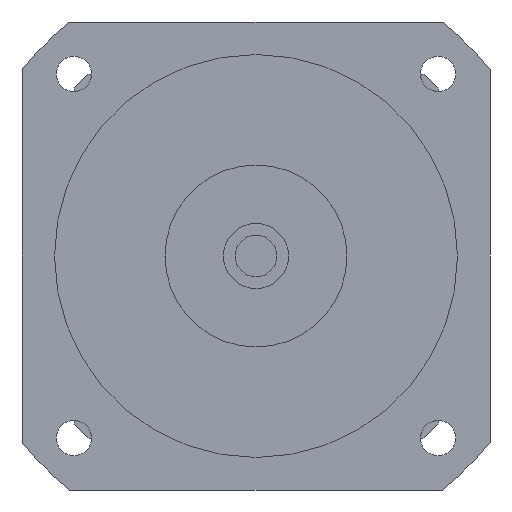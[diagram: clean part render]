
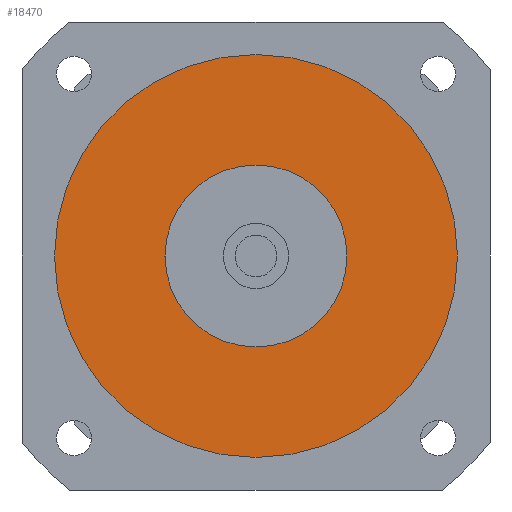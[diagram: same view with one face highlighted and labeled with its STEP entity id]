
A CAD part, left-side view. The second image highlights one B-rep face of the part: STEP entity #18470.
In plain terms, the highlighted planar face has unit normal (-1, 0, 0) as drawn and (0, 0, -1) by its records, which use the part's own axes.
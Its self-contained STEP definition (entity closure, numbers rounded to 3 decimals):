
#17890=CARTESIAN_POINT('',(77.5,0.,-59.7));
#17900=VERTEX_POINT('',#17890);
#17990=CARTESIAN_POINT('',(-77.5,0.,-59.7));
#18000=VERTEX_POINT('',#17990);
#18030=CARTESIAN_POINT('',(0.,0.,
-59.7));
#18040=DIRECTION('',(0.,0.,1.));
#18050=DIRECTION('',(0.,1.,0.));
#18060=AXIS2_PLACEMENT_3D('',#18030,#18040,#18050);
#18070=CIRCLE('',#18060,77.5);
#18080=CARTESIAN_POINT('',(0.,77.5,-59.7));
#18090=VERTEX_POINT('',#18080);
#18100=EDGE_CURVE('',#18090,#18000,#18070,.T.);
#18120=EDGE_CURVE('',#17900,#18090,#18070,.T.);
#18170=CARTESIAN_POINT('',(0.,0.,
-59.7));
#18180=DIRECTION('',(0.,0.,1.));
#18190=DIRECTION('',(-1.,0.,0.));
#18200=AXIS2_PLACEMENT_3D('',#18170,#18180,#18190);
#18210=PLANE('',#18200);
#18220=ORIENTED_EDGE('',*,*,#18100,.F.);
#18230=EDGE_CURVE('',#18000,#17900,#18070,.T.);
#18240=ORIENTED_EDGE('',*,*,#18230,.F.);
#18250=ORIENTED_EDGE('',*,*,#18120,.F.);
#18260=EDGE_LOOP('',(#18250,#18240,#18220));
#18270=FACE_OUTER_BOUND('',#18260,.T.);
#18280=CARTESIAN_POINT('',(0.,0.,
-59.7));
#18290=DIRECTION('',(0.,0.,1.));
#18300=DIRECTION('',(0.,1.,0.));
#18310=AXIS2_PLACEMENT_3D('',#18280,#18290,#18300);
#18320=CIRCLE('',#18310,35.);
#18330=CARTESIAN_POINT('',(-35.,0.,-59.7));
#18340=VERTEX_POINT('',#18330);
#18350=CARTESIAN_POINT('',(35.,0.,-59.7));
#18360=VERTEX_POINT('',#18350);
#18370=EDGE_CURVE('',#18340,#18360,#18320,.T.);
#18380=ORIENTED_EDGE('',*,*,#18370,.T.);
#18390=CARTESIAN_POINT('',(0.,35.,-59.7));
#18400=VERTEX_POINT('',#18390);
#18410=EDGE_CURVE('',#18400,#18340,#18320,.T.);
#18420=ORIENTED_EDGE('',*,*,#18410,.T.);
#18430=EDGE_CURVE('',#18360,#18400,#18320,.T.);
#18440=ORIENTED_EDGE('',*,*,#18430,.T.);
#18450=EDGE_LOOP('',(#18440,#18420,#18380));
#18460=FACE_BOUND('',#18450,.T.);
#18470=ADVANCED_FACE('',(#18270,#18460),#18210,.F.);
